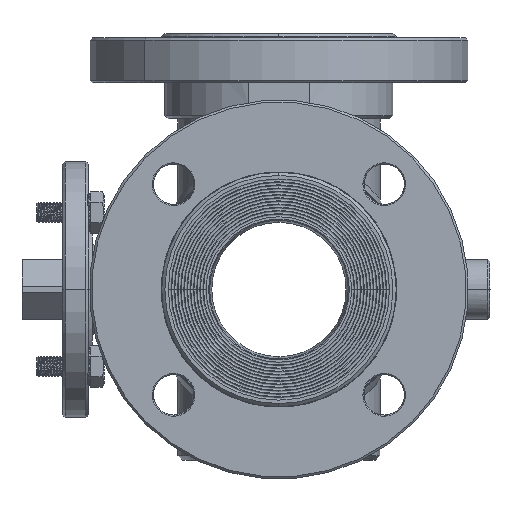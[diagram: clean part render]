
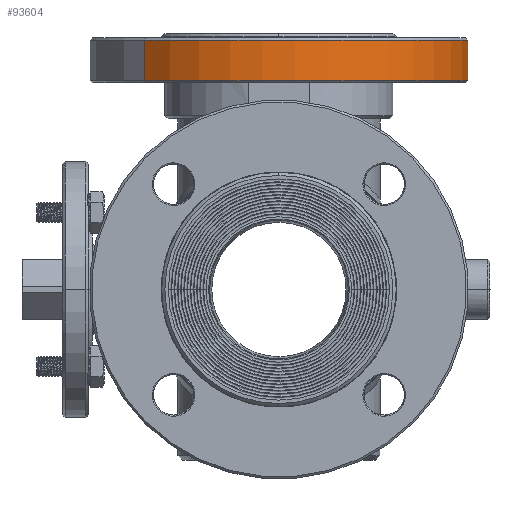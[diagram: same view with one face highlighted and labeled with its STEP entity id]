
A CAD part, left-side view. The second image highlights one B-rep face of the part: STEP entity #93604.
In plain terms, the highlighted cylindrical face has radius 88.9 mm (diameter 177.8 mm), a partial arc.
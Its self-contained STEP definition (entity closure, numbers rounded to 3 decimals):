
#2796=CARTESIAN_POINT('',(0.,0.,98.));
#2797=DIRECTION('',(0.,0.,1.));
#2798=DIRECTION('',(-0.707,0.707,0.));
#2799=AXIS2_PLACEMENT_3D('',#2796,#2797,#2798);
#2804=DIRECTION('',(0.,0.,1.));
#2805=VECTOR('',#2804,19.);
#2806=CARTESIAN_POINT('',(-62.862,62.862,98.));
#2807=LINE('',#2806,#2805);
#2811=CARTESIAN_POINT('',(0.,0.,117.));
#2812=DIRECTION('',(0.,0.,1.));
#2813=DIRECTION('',(-0.707,0.707,0.));
#2814=AXIS2_PLACEMENT_3D('',#2811,#2812,#2813);
#2819=DIRECTION('',(0.,0.,1.));
#2820=VECTOR('',#2819,19.);
#2821=CARTESIAN_POINT('',(62.862,-62.862,98.));
#2822=LINE('',#2821,#2820);
#88229=CARTESIAN_POINT('',(62.862,-62.862,
117.));
#88230=CARTESIAN_POINT('',(-62.862,62.862,
117.));
#88231=VERTEX_POINT('',#88229);
#88232=VERTEX_POINT('',#88230);
#88233=CARTESIAN_POINT('',(62.862,-62.862,
98.));
#88234=CARTESIAN_POINT('',(-62.862,62.862,
98.));
#88235=VERTEX_POINT('',#88233);
#88236=VERTEX_POINT('',#88234);
#93591=CARTESIAN_POINT('',(0.,0.,95.95));
#93592=DIRECTION('',(0.,0.,1.));
#93593=DIRECTION('',(0.707,-0.707,0.));
#93594=AXIS2_PLACEMENT_3D('',#93591,#93592,#93593);
#93595=CYLINDRICAL_SURFACE('',#93594,88.9);
#93597=ORIENTED_EDGE('',*,*,#93596,.F.);
#93598=ORIENTED_EDGE('',*,*,#93586,.T.);
#93600=ORIENTED_EDGE('',*,*,#93599,.T.);
#93601=ORIENTED_EDGE('',*,*,#93582,.F.);
#93602=EDGE_LOOP('',(#93597,#93598,#93600,#93601));
#93603=FACE_OUTER_BOUND('',#93602,.F.);
#93604=ADVANCED_FACE('',(#93603),#93595,.T.);
#2800=CIRCLE('',#2799,88.9);
#2815=CIRCLE('',#2814,88.9);
#93582=EDGE_CURVE('',#88235,#88231,#2822,.T.);
#93586=EDGE_CURVE('',#88236,#88232,#2807,.T.);
#93596=EDGE_CURVE('',#88236,#88235,#2800,.T.);
#93599=EDGE_CURVE('',#88232,#88231,#2815,.T.);
